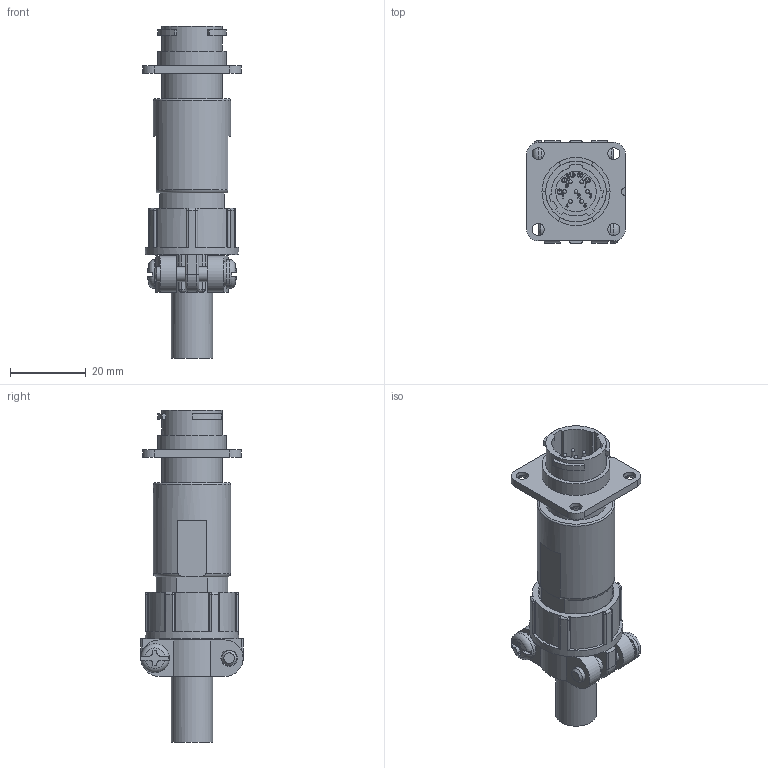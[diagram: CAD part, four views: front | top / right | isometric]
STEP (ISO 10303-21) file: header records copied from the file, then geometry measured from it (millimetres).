
FILE_DESCRIPTION (( 'STEP AP203' ), '1' );
FILE_NAME ('WEBWR1307M-1-D(R1).STEP', '2021-07-30T05:00:15', ( '' ), ( '' ), 'SwSTEP 2.0', 'SolidWorks 2018', '' );
FILE_SCHEMA (( 'CONFIG_CONTROL_DESIGN' ));
Length unit declared in the file: millimetre
Products named in the file (1): WEBWR1307M-1-D(R1)
Bounding box: 26 x 27.2 x 87.62 mm (x, y, z)
Volume: 17089.9 mm3; surface area: 13634.6 mm2
Topology: 1 solids, 1 shells, 835 faces, 2245 edges, 1453 vertices
Faces by surface type: plane 379, bspline 222, cylinder 168, sphere 27, cone 23, torus 16
Full cylindrical faces by diameter (mm): 1 x7, 1.1 x7, 1.2 x4, 1.4 x4, 1.55 x7, 2.8 x2, 3.2 x4, 4 x4, 4.3 x4, 7.6 x2, 9 x2, 10 x1, 10.3 x1, 10.7 x1, 10.85 x1, 11 x1, 12.2 x1, 12.4 x1, 15.96 x1, 16 x1, 18 x1, 19.5 x1, 20.4 x1, 24.6 x1
Entity records: 33651 total; most frequent: CARTESIAN_POINT 14716, ORIENTED_EDGE 4156, DIRECTION 3226, EDGE_CURVE 2078, VERTEX_POINT 1402, LINE 1166, VECTOR 1166, AXIS2_PLACEMENT_3D 1030
